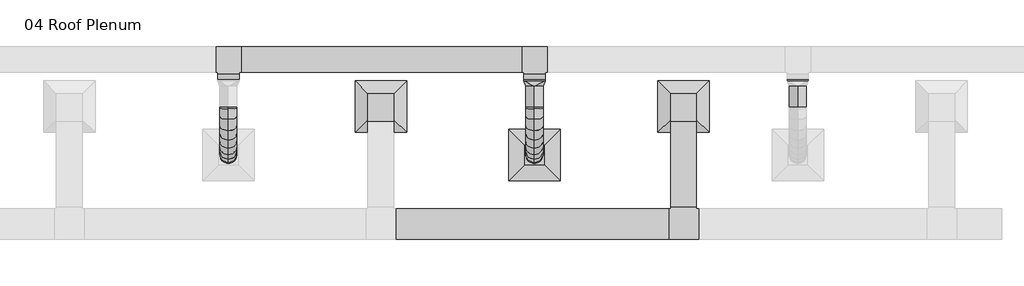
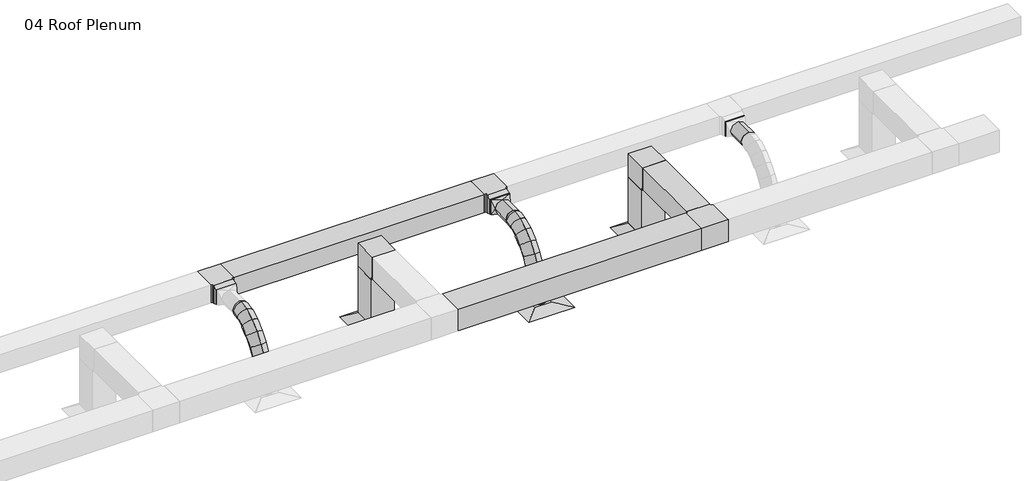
# One storey, part 8 of 9: 11 duct segments, 8 duct fittings, 3 air terminals.
"""IFC4 building model written with IfcOpenShell, lengths in millimetres."""

from ifc_helpers import new_model, si_unit, point, frame, frame_2d, origin, place, context, project, spatial, polyline, circle_curve, ellipse_curve, trimmed, segment, composite_curve, outline, extrude, transform, mapped, element, save
from ifc_brep_helpers import plane_surface, cylinder_surface, advanced_brep
from components import return_diffuser_d30_returndiffuser_24x24_12x12_connection_ff543d60, supply_diffuser_rectangular_face_round_neck_d30_6390248a, rectangular_elbow_mitered_standard_4ff1c4e8, rectangular_tee_standard_b02a46a0, rectangular_tee_standard_ab376c81, rectangular_transition_angle_45_degree_c4f24900, rectangular_to_round_transition_angle_45_degree_e9430680

model = new_model("IFC4")

# Units and contexts
model_context = context("Model", 3, world=origin())
ifc_project = project(units=[si_unit("LENGTHUNIT", "METRE", prefix="MILLI")], contexts=[model_context])

# Site, building, storey
site = spatial("IfcSite", under=ifc_project)
building = spatial("IfcBuilding", under=site)
storey = spatial("IfcBuildingStorey", under=building, Name="04 Roof Plenum", Elevation=12192.0)

# Air terminals
placement = place(None, origin())
return_diffuser_d30_returndiffuser_24x24_12x12_connection_shape = return_diffuser_d30_returndiffuser_24x24_12x12_connection_ff543d60(model_context)
element("IfcAirTerminal", 1, ObjectType="Return Diffuser : D30_ReturnDiffuser_24x24 12x12 Connection", at=placement, inside=storey, context=model_context, shape_type="MappedRepresentation", body=[
    mapped(return_diffuser_d30_returndiffuser_24x24_12x12_connection_shape, transform((2965.5286275, 10669.6809317, 12192.0), x_axis=(1.0, 0.0, 0.0), y_axis=(0.0, 1.0, 0.0), z_axis=(0.0, 0.0, 1.0))),
])
element("IfcAirTerminal", 2, ObjectType="Return Diffuser : D30_ReturnDiffuser_24x24 12x12 Connection", at=placement, inside=storey, context=model_context, shape_type="MappedRepresentation", body=[
    mapped(return_diffuser_d30_returndiffuser_24x24_12x12_connection_shape, transform((6548.6457383, 10669.6809317, 12192.0), x_axis=(1.0, 0.0, 0.0), y_axis=(0.0, 1.0, 0.0), z_axis=(0.0, 0.0, 1.0))),
])
supply_diffuser_rectangular_face_round_neck_d30_shape = supply_diffuser_rectangular_face_round_neck_d30_6390248a(model_context)
element("IfcAirTerminal", 3, ObjectType="Supply Diffuser - Rectangular Face Round Neck : D30_SupplyDiffuser_24x24 8 Neck", at=placement, inside=storey, context=model_context, shape_type="MappedRepresentation", body=[
    mapped(supply_diffuser_rectangular_face_round_neck_d30_shape, transform((4783.476314, 10097.0921675, 12192.0), x_axis=(1.0, 0.0, 0.0), y_axis=(0.0, 1.0, 0.0), z_axis=(0.0, 0.0, 1.0))),
])

# Duct fittings
rectangular_elbow_mitered_standard_shape = rectangular_elbow_mitered_standard_4ff1c4e8(model_context)
element("IfcDuctFitting", 4, ObjectType="Rectangular Elbow - Mitered : Standard", at=placement, inside=storey, context=model_context, shape_type="MappedRepresentation", body=[
    mapped(rectangular_elbow_mitered_standard_shape, transform((6548.6457383, 10669.6809317, 13112.75), x_axis=(0.0, 0.0, 1.0), y_axis=(0.0, -1.0, 0.0), z_axis=(1.0, 0.0, 0.0))),
])
element("IfcDuctFitting", 5, ObjectType="Rectangular Elbow - Mitered : Standard", at=placement, inside=storey, context=model_context, shape_type="MappedRepresentation", body=[
    mapped(rectangular_elbow_mitered_standard_shape, transform((2965.5286275, 10669.6809317, 13112.75), x_axis=(0.0, 0.0, 1.0), y_axis=(0.0, -1.0, 0.0), z_axis=(1.0, 0.0, 0.0))),
])
rectangular_tee_standard_shape = rectangular_tee_standard_b02a46a0(model_context)
element("IfcDuctFitting", 6, ObjectType="Rectangular Tee : Standard", at=placement, inside=storey, context=model_context, shape_type="MappedRepresentation", body=[
    mapped(rectangular_tee_standard_shape, transform((6548.6457383, 9280.3101985, 13112.75), x_axis=(-1.0, 0.0, 0.0), y_axis=(0.0, -1.0, 0.0), z_axis=(0.0, 0.0, 1.0))),
])
rectangular_tee_standard_2_shape = rectangular_tee_standard_ab376c81(model_context)
element("IfcDuctFitting", 7, ObjectType="Rectangular Tee : Standard", at=placement, inside=storey, context=model_context, shape_type="MappedRepresentation", body=[
    mapped(rectangular_tee_standard_2_shape, transform((1160.9657413, 11228.4809317, 13030.2), x_axis=(1.0, 0.0, 0.0), y_axis=(0.0, 1.0, 0.0), z_axis=(0.0, 0.0, 1.0))),
])
element("IfcDuctFitting", 8, ObjectType="Rectangular Tee : Standard", at=placement, inside=storey, context=model_context, shape_type="MappedRepresentation", body=[
    mapped(rectangular_tee_standard_2_shape, transform((4783.476314, 11228.4809317, 13030.2), x_axis=(1.0, 0.0, 0.0), y_axis=(0.0, 1.0, 0.0), z_axis=(0.0, 0.0, 1.0))),
])
rectangular_transition_angle_45_degree_shape = rectangular_transition_angle_45_degree_c4f24900(model_context)
element("IfcDuctFitting", 9, ObjectType="Rectangular Transition - Angle : 45 Degree", at=placement, inside=storey, context=model_context, shape_type="MappedRepresentation", body=[
    mapped(rectangular_transition_angle_45_degree_shape, transform((1160.9657413, 11050.6809317, 13030.2), x_axis=(0.0, -1.0, 0.0), y_axis=(1.0, 0.0, 0.0), z_axis=(0.0, 0.0, 1.0))),
])
element("IfcDuctFitting", 10, ObjectType="Rectangular Transition - Angle : 45 Degree", at=placement, inside=storey, context=model_context, shape_type="MappedRepresentation", body=[
    mapped(rectangular_transition_angle_45_degree_shape, transform((4783.476314, 11050.6809317, 13030.2), x_axis=(0.0, -1.0, 0.0), y_axis=(1.0, 0.0, 0.0), z_axis=(0.0, 0.0, 1.0))),
])
rectangular_to_round_transition_angle_45_degree_shape = rectangular_to_round_transition_angle_45_degree_e9430680(model_context)
element("IfcDuctFitting", 11, ObjectType="Rectangular to Round Transition - Angle : 45 Degree", at=placement, inside=storey, context=model_context, shape_type="MappedRepresentation", body=[
    mapped(rectangular_to_round_transition_angle_45_degree_shape, transform((4783.476314, 10974.4809317, 13030.2), x_axis=(0.0, -1.0, 0.0), y_axis=(1.0, 0.0, 0.0), z_axis=(0.0, 0.0, 1.0))),
])

# Duct segments
element("IfcDuctSegment", 12, ObjectType="Flex - Round", at=placement, inside=storey, context=model_context, shape_type="AdvancedBrep", body=[
    advanced_brep(
    [(1262.5657413, 10669.6809317, 13030.2), (1160.9657413, 10669.6809317, 12928.6), (1059.3657413, 10669.6809317, 13030.2), (1160.9657413, 10669.6809317, 13131.8), (1262.5657413, 10652.2882316, 13030.2), (1160.9657413, 10662.5424009, 12928.6), (1059.3657413, 10652.2882316, 13030.2), (1160.9657413, 10642.0340622, 13131.8), (1262.5657413, 10097.0921675, 12245.975), (1160.9657413, 9995.4921675, 12245.975), (1059.3657413, 10097.0921675, 12245.975), (1160.9657413, 10198.6921675, 12245.975), (1262.5657413, 10552.1485052, 13009.7784039), (1160.9657413, 10586.4635053, 12913.0851535), (1059.3657413, 10552.1485052, 13009.7784039), (1160.9657413, 10517.8335052, 13106.4716542), (1262.5657413, 10443.6651982, 12953.1810901), (1160.9657413, 10501.5750524, 12868.7976172), (1059.3657413, 10443.6651982, 12953.1810901), (1160.9657413, 10385.755344, 13037.5645631), (1262.5657413, 10346.2719981, 12867.4092706), (1160.9657413, 10420.5307901, 12797.423909), (1059.3657413, 10346.2719981, 12867.4092706), (1160.9657413, 10272.0132062, 12937.3946321), (1262.5657413, 10262.0098926, 12759.464157), (1160.9657413, 10346.840584, 12703.0220706), (1059.3657413, 10262.0098926, 12759.464157), (1160.9657413, 10177.1792012, 12815.9062434), (1262.5657413, 10192.9198692, 12636.3469613), (1160.9657413, 10284.8852402, 12592.6187474), (1059.3657413, 10192.9198692, 12636.3469613), (1160.9657413, 10100.9544982, 12680.0751753), (1262.5657413, 10141.0429155, 12505.0588954), (1160.9657413, 10238.0545241, 12474.1014926), (1059.3657413, 10141.0429155, 12505.0588954), (1160.9657413, 10044.0313069, 12536.0162982), (1262.5657413, 10108.4200191, 12372.601171), (1160.9657413, 10208.8419323, 12355.4905212), (1059.3657413, 10108.4200191, 12372.601171), (1160.9657413, 10007.9981059, 12389.7118208), (1262.5657413, 10097.0921675, 12255.0278826), (1160.9657413, 10198.6921675, 12250.1447533), (1059.3657413, 10097.0921675, 12255.0278826), (1160.9657413, 9995.4921675, 12259.911012)],
    [
        (0, 1, circle_curve(frame((1160.9657413, 10669.6809317, 13030.2), z_axis=(0.0, 1.0, 0.0), x_axis=(1.0, 0.0, 0.0)), 101.6)),
        (1, 2, circle_curve(frame((1160.9657413, 10669.6809317, 13030.2), z_axis=(0.0, 1.0, 0.0), x_axis=(1.0, 0.0, 0.0)), 101.6)),
        (2, 3, circle_curve(frame((1160.9657413, 10669.6809317, 13030.2), z_axis=(0.0, 1.0, 0.0), x_axis=(1.0, 0.0, 0.0)), 101.6)),
        (3, 0, circle_curve(frame((1160.9657413, 10669.6809317, 13030.2), z_axis=(0.0, 1.0, 0.0), x_axis=(1.0, 0.0, 0.0)), 101.6)),
        (0, 4),
        (4, 5, ellipse_curve(frame((1160.9657413, 10652.2882316, 13030.2), z_axis=(0.0, 0.9949454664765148, 0.10041672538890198), x_axis=(0.0, 0.10041672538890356, -0.9949454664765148)), 102.1161495, 101.6)),
        (5, 1),
        (5, 6, ellipse_curve(frame((1160.9657413, 10652.2882316, 13030.2), z_axis=(0.0, 0.9949454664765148, 0.10041672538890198), x_axis=(0.0, 0.10041672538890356, -0.9949454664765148)), 102.1161495, 101.6)),
        (6, 2),
        (6, 7, ellipse_curve(frame((1160.9657413, 10652.2882316, 13030.2), z_axis=(0.0, 0.9949454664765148, 0.10041672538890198), x_axis=(0.0, 0.10041672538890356, -0.9949454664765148)), 102.1161495, 101.6)),
        (7, 3),
        (7, 4, ellipse_curve(frame((1160.9657413, 10652.2882316, 13030.2), z_axis=(0.0, 0.9949454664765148, 0.10041672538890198), x_axis=(0.0, 0.10041672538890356, -0.9949454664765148)), 102.1161495, 101.6)),
        (8, 9, circle_curve(frame((1160.9657413, 10097.0921675, 12245.975), z_axis=(0.0, 0.0, -1.0), x_axis=(1.0, 0.0, 0.0)), 101.6)),
        (9, 10, circle_curve(frame((1160.9657413, 10097.0921675, 12245.975), z_axis=(0.0, 0.0, -1.0), x_axis=(1.0, 0.0, 0.0)), 101.6)),
        (10, 11, circle_curve(frame((1160.9657413, 10097.0921675, 12245.975), z_axis=(0.0, 0.0, -1.0), x_axis=(1.0, 0.0, 0.0)), 101.6)),
        (11, 8, circle_curve(frame((1160.9657413, 10097.0921675, 12245.975), z_axis=(0.0, 0.0, -1.0), x_axis=(1.0, 0.0, 0.0)), 101.6)),
        (4, 12),
        (12, 13, ellipse_curve(frame((1160.9657413, 10552.1485052, 13009.7784039), z_axis=(0.0, 0.9424139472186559, 0.33444872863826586), x_axis=(0.0, 0.3344487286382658, -0.9424139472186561)), 102.6016759, 101.6)),
        (13, 5),
        (13, 14, ellipse_curve(frame((1160.9657413, 10552.1485052, 13009.7784039), z_axis=(0.0, 0.9424139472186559, 0.33444872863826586), x_axis=(0.0, 0.3344487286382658, -0.9424139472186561)), 102.6016759, 101.6)),
        (14, 6),
        (14, 15, ellipse_curve(frame((1160.9657413, 10552.1485052, 13009.7784039), z_axis=(0.0, 0.9424139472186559, 0.33444872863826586), x_axis=(0.0, 0.3344487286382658, -0.9424139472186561)), 102.6016759, 101.6)),
        (15, 7),
        (15, 12, ellipse_curve(frame((1160.9657413, 10552.1485052, 13009.7784039), z_axis=(0.0, 0.9424139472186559, 0.33444872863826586), x_axis=(0.0, 0.3344487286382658, -0.9424139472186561)), 102.6016759, 101.6)),
        (12, 16),
        (16, 17, ellipse_curve(frame((1160.9657413, 10443.6651982, 12953.1810901), z_axis=(0.0, 0.8245150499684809, 0.5658400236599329), x_axis=(0.0, 0.5658400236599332, -0.8245150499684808)), 102.3431567, 101.6)),
        (17, 13),
        (17, 18, ellipse_curve(frame((1160.9657413, 10443.6651982, 12953.1810901), z_axis=(0.0, 0.8245150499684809, 0.5658400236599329), x_axis=(0.0, 0.5658400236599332, -0.8245150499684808)), 102.3431567, 101.6)),
        (18, 14),
        (18, 19, ellipse_curve(frame((1160.9657413, 10443.6651982, 12953.1810901), z_axis=(0.0, 0.8245150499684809, 0.5658400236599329), x_axis=(0.0, 0.5658400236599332, -0.8245150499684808)), 102.3431567, 101.6)),
        (19, 15),
        (19, 16, ellipse_curve(frame((1160.9657413, 10443.6651982, 12953.1810901), z_axis=(0.0, 0.8245150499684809, 0.5658400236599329), x_axis=(0.0, 0.5658400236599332, -0.8245150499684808)), 102.3431567, 101.6)),
        (16, 20),
        (20, 21, ellipse_curve(frame((1160.9657413, 10346.2719981, 12867.4092706), z_axis=(0.0, 0.6858568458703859, 0.7277364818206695), x_axis=(0.0, 0.7277364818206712, -0.6858568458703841)), 102.0407714, 101.6)),
        (21, 17),
        (21, 22, ellipse_curve(frame((1160.9657413, 10346.2719981, 12867.4092706), z_axis=(0.0, 0.6858568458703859, 0.7277364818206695), x_axis=(0.0, 0.7277364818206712, -0.6858568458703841)), 102.0407714, 101.6)),
        (22, 18),
        (22, 23, ellipse_curve(frame((1160.9657413, 10346.2719981, 12867.4092706), z_axis=(0.0, 0.6858568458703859, 0.7277364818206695), x_axis=(0.0, 0.7277364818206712, -0.6858568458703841)), 102.0407714, 101.6)),
        (23, 19),
        (23, 20, ellipse_curve(frame((1160.9657413, 10346.2719981, 12867.4092706), z_axis=(0.0, 0.6858568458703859, 0.7277364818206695), x_axis=(0.0, 0.7277364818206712, -0.6858568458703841)), 102.0407714, 101.6)),
        (20, 24),
        (24, 25, ellipse_curve(frame((1160.9657413, 10262.0098926, 12759.464157), z_axis=(0.0, 0.5539409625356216, 0.832555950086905), x_axis=(0.0, 0.8325559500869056, -0.5539409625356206)), 101.8918805, 101.6)),
        (25, 21),
        (25, 26, ellipse_curve(frame((1160.9657413, 10262.0098926, 12759.464157), z_axis=(0.0, 0.5539409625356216, 0.832555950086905), x_axis=(0.0, 0.8325559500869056, -0.5539409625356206)), 101.8918805, 101.6)),
        (26, 22),
        (26, 27, ellipse_curve(frame((1160.9657413, 10262.0098926, 12759.464157), z_axis=(0.0, 0.5539409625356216, 0.832555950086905), x_axis=(0.0, 0.8325559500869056, -0.5539409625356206)), 101.8918805, 101.6)),
        (27, 23),
        (27, 24, ellipse_curve(frame((1160.9657413, 10262.0098926, 12759.464157), z_axis=(0.0, 0.5539409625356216, 0.832555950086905), x_axis=(0.0, 0.8325559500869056, -0.5539409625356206)), 101.8918805, 101.6)),
        (24, 28),
        (28, 29, ellipse_curve(frame((1160.9657413, 10192.9198692, 12636.3469613), z_axis=(0.0, 0.42941463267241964, 0.9031074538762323), x_axis=(0.0, 0.9031074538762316, -0.4294146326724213)), 101.832147, 101.6)),
        (29, 25),
        (29, 30, ellipse_curve(frame((1160.9657413, 10192.9198692, 12636.3469613), z_axis=(0.0, 0.42941463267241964, 0.9031074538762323), x_axis=(0.0, 0.9031074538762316, -0.4294146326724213)), 101.832147, 101.6)),
        (30, 26),
        (30, 31, ellipse_curve(frame((1160.9657413, 10192.9198692, 12636.3469613), z_axis=(0.0, 0.42941463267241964, 0.9031074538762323), x_axis=(0.0, 0.9031074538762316, -0.4294146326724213)), 101.832147, 101.6)),
        (31, 27),
        (31, 28, ellipse_curve(frame((1160.9657413, 10192.9198692, 12636.3469613), z_axis=(0.0, 0.42941463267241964, 0.9031074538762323), x_axis=(0.0, 0.9031074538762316, -0.4294146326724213)), 101.832147, 101.6)),
        (28, 32),
        (32, 33, ellipse_curve(frame((1160.9657413, 10141.0429155, 12505.0588954), z_axis=(0.0, 0.30400676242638, 0.9526698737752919), x_axis=(0.0, 0.9526698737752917, -0.3040067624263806)), 101.8312967, 101.6)),
        (33, 29),
        (33, 34, ellipse_curve(frame((1160.9657413, 10141.0429155, 12505.0588954), z_axis=(0.0, 0.30400676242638, 0.9526698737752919), x_axis=(0.0, 0.9526698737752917, -0.3040067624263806)), 101.8312967, 101.6)),
        (34, 30),
        (34, 35, ellipse_curve(frame((1160.9657413, 10141.0429155, 12505.0588954), z_axis=(0.0, 0.30400676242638, 0.9526698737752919), x_axis=(0.0, 0.9526698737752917, -0.3040067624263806)), 101.8312967, 101.6)),
        (35, 31),
        (35, 32, ellipse_curve(frame((1160.9657413, 10141.0429155, 12505.0588954), z_axis=(0.0, 0.30400676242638, 0.9526698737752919), x_axis=(0.0, 0.9526698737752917, -0.3040067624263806)), 101.8312967, 101.6)),
        (32, 36),
        (36, 37, ellipse_curve(frame((1160.9657413, 10108.4200191, 12372.601171), z_axis=(0.0, 0.16796685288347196, 0.9857926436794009), x_axis=(0.0, 0.9857926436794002, -0.16796685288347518)), 101.8692053, 101.6)),
        (37, 33),
        (37, 38, ellipse_curve(frame((1160.9657413, 10108.4200191, 12372.601171), z_axis=(0.0, 0.16796685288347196, 0.9857926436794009), x_axis=(0.0, 0.9857926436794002, -0.16796685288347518)), 101.8692053, 101.6)),
        (38, 34),
        (38, 39, ellipse_curve(frame((1160.9657413, 10108.4200191, 12372.601171), z_axis=(0.0, 0.16796685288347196, 0.9857926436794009), x_axis=(0.0, 0.9857926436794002, -0.16796685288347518)), 101.8692053, 101.6)),
        (39, 35),
        (39, 36, ellipse_curve(frame((1160.9657413, 10108.4200191, 12372.601171), z_axis=(0.0, 0.16796685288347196, 0.9857926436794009), x_axis=(0.0, 0.9857926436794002, -0.16796685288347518)), 101.8692053, 101.6)),
        (36, 40),
        (40, 41, ellipse_curve(frame((1160.9657413, 10097.0921675, 12255.0278826), z_axis=(0.0, 0.04800688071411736, 0.998847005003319), x_axis=(0.0, 0.9988470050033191, -0.048006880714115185)), 101.7172795, 101.6)),
        (41, 37),
        (41, 42, ellipse_curve(frame((1160.9657413, 10097.0921675, 12255.0278826), z_axis=(0.0, 0.04800688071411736, 0.998847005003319), x_axis=(0.0, 0.9988470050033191, -0.048006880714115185)), 101.7172795, 101.6)),
        (42, 38),
        (42, 43, ellipse_curve(frame((1160.9657413, 10097.0921675, 12255.0278826), z_axis=(0.0, 0.04800688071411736, 0.998847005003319), x_axis=(0.0, 0.9988470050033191, -0.048006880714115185)), 101.7172795, 101.6)),
        (43, 39),
        (43, 40, ellipse_curve(frame((1160.9657413, 10097.0921675, 12255.0278826), z_axis=(0.0, 0.04800688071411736, 0.998847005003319), x_axis=(0.0, 0.9988470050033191, -0.048006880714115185)), 101.7172795, 101.6)),
        (40, 8),
        (11, 41),
        (10, 42),
        (9, 43),
    ],
    [
        plane_surface(frame((1059.3657413, 10669.6809317, 13030.2), z_axis=(0.0, 1.0, 0.0), x_axis=(0.0, 0.0, -1.0))),
        cylinder_surface(frame((1160.9657413, 10669.6809317, 13030.2), z_axis=(0.0, 1.0, 0.0), x_axis=(1.0, 0.0, 0.0)), 101.6),
        plane_surface(frame((1160.9657413, 9995.4921675, 12245.975), z_axis=(0.0, 0.0, -1.0), x_axis=(-1.0, 0.0, 0.0))),
        cylinder_surface(frame((1160.9657413, 10652.2882316, 13030.2), z_axis=(0.0, 0.9798329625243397, 0.19981833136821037), x_axis=(1.0, 0.0, 0.0)), 101.6),
        cylinder_surface(frame((1160.9657413, 10552.1485052, 13009.7784039), z_axis=(0.0, 0.8865938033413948, 0.4625488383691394), x_axis=(1.0, 0.0, 0.0)), 101.6),
        cylinder_surface(frame((1160.9657413, 10443.6651982, 12953.1810901), z_axis=(0.0, 0.7504619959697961, 0.6609136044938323), x_axis=(1.0, 0.0, 0.0)), 101.6),
        cylinder_surface(frame((1160.9657413, 10346.2719981, 12867.4092706), z_axis=(0.0, 0.6153264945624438, 0.7882723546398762), x_axis=(1.0, 0.0, 0.0)), 101.6),
        cylinder_surface(frame((1160.9657413, 10262.0098926, 12759.464157), z_axis=(0.0, 0.4893817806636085, 0.8720696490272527), x_axis=(1.0, 0.0, 0.0)), 101.6),
        cylinder_surface(frame((1160.9657413, 10192.9198692, 12636.3469613), z_axis=(0.0, 0.36748960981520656, 0.9300276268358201), x_axis=(1.0, 0.0, 0.0)), 101.6),
        cylinder_surface(frame((1160.9657413, 10141.0429155, 12505.0588954), z_axis=(0.0, 0.23914289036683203, 0.9709843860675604), x_axis=(1.0, 0.0, 0.0)), 101.6),
        cylinder_surface(frame((1160.9657413, 10108.4200191, 12372.601171), z_axis=(0.0, 0.09590305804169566, 0.995390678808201), x_axis=(1.0, 0.0, 0.0)), 101.6),
        cylinder_surface(frame((1160.9657413, 10097.0921675, 12255.0278826), z_axis=(0.0, 0.0, 1.0), x_axis=(1.0, 0.0, 0.0)), 101.6),
    ],
    [
        (0, [[1, 2, 3, 4]]),
        (1, [[-1, 5, 6, 7]]),
        (1, [[-2, -7, 8, 9]]),
        (1, [[-3, -9, 10, 11]]),
        (1, [[-4, -11, 12, -5]]),
        (2, [[13, 14, 15, 16]]),
        (3, [[-6, 17, 18, 19]]),
        (3, [[-8, -19, 20, 21]]),
        (3, [[-10, -21, 22, 23]]),
        (3, [[-12, -23, 24, -17]]),
        (4, [[-18, 25, 26, 27]]),
        (4, [[-20, -27, 28, 29]]),
        (4, [[-22, -29, 30, 31]]),
        (4, [[-24, -31, 32, -25]]),
        (5, [[-26, 33, 34, 35]]),
        (5, [[-28, -35, 36, 37]]),
        (5, [[-30, -37, 38, 39]]),
        (5, [[-32, -39, 40, -33]]),
        (6, [[-34, 41, 42, 43]]),
        (6, [[-36, -43, 44, 45]]),
        (6, [[-38, -45, 46, 47]]),
        (6, [[-40, -47, 48, -41]]),
        (7, [[-42, 49, 50, 51]]),
        (7, [[-44, -51, 52, 53]]),
        (7, [[-46, -53, 54, 55]]),
        (7, [[-48, -55, 56, -49]]),
        (8, [[-50, 57, 58, 59]]),
        (8, [[-52, -59, 60, 61]]),
        (8, [[-54, -61, 62, 63]]),
        (8, [[-56, -63, 64, -57]]),
        (9, [[-58, 65, 66, 67]]),
        (9, [[-60, -67, 68, 69]]),
        (9, [[-62, -69, 70, 71]]),
        (9, [[-64, -71, 72, -65]]),
        (10, [[-66, 73, 74, 75]]),
        (10, [[-68, -75, 76, 77]]),
        (10, [[-70, -77, 78, 79]]),
        (10, [[-72, -79, 80, -73]]),
        (11, [[-74, 81, -16, 82]]),
        (11, [[-76, -82, -15, 83]]),
        (11, [[-78, -83, -14, 84]]),
        (11, [[-80, -84, -13, -81]]),
    ],
),
])
element("IfcDuctSegment", 13, ObjectType="Flex - Round", at=placement, inside=storey, context=model_context, shape_type="AdvancedBrep", body=[
    advanced_brep(
    [(4885.076314, 10669.6809317, 13030.2), (4783.476314, 10669.6809317, 12928.6), (4681.876314, 10669.6809317, 13030.2), (4783.476314, 10669.6809317, 13131.8), (4885.076314, 10652.2882316, 13030.2), (4783.476314, 10662.5424009, 12928.6), (4681.876314, 10652.2882316, 13030.2), (4783.476314, 10642.0340622, 13131.8), (4885.076314, 10097.0921675, 12245.975), (4783.476314, 9995.4921675, 12245.975), (4681.876314, 10097.0921675, 12245.975), (4783.476314, 10198.6921675, 12245.975), (4885.076314, 10552.1485052, 13009.7784039), (4783.476314, 10586.4635053, 12913.0851535), (4681.876314, 10552.1485052, 13009.7784039), (4783.476314, 10517.8335052, 13106.4716542), (4885.076314, 10443.6651982, 12953.1810901), (4783.476314, 10501.5750524, 12868.7976172), (4681.876314, 10443.6651982, 12953.1810901), (4783.476314, 10385.755344, 13037.5645631), (4885.076314, 10346.2719981, 12867.4092706), (4783.476314, 10420.5307901, 12797.423909), (4681.876314, 10346.2719981, 12867.4092706), (4783.476314, 10272.0132062, 12937.3946321), (4885.076314, 10262.0098926, 12759.464157), (4783.476314, 10346.840584, 12703.0220706), (4681.876314, 10262.0098926, 12759.464157), (4783.476314, 10177.1792012, 12815.9062434), (4885.076314, 10192.9198692, 12636.3469613), (4783.476314, 10284.8852402, 12592.6187474), (4681.876314, 10192.9198692, 12636.3469613), (4783.476314, 10100.9544982, 12680.0751753), (4885.076314, 10141.0429155, 12505.0588954), (4783.476314, 10238.0545241, 12474.1014926), (4681.876314, 10141.0429155, 12505.0588954), (4783.476314, 10044.0313069, 12536.0162982), (4885.076314, 10108.4200191, 12372.601171), (4783.476314, 10208.8419323, 12355.4905212), (4681.876314, 10108.4200191, 12372.601171), (4783.476314, 10007.9981059, 12389.7118208), (4885.076314, 10097.0921675, 12255.0278826), (4783.476314, 10198.6921675, 12250.1447533), (4681.876314, 10097.0921675, 12255.0278826), (4783.476314, 9995.4921675, 12259.911012)],
    [
        (0, 1, circle_curve(frame((4783.476314, 10669.6809317, 13030.2), z_axis=(0.0, 1.0, 0.0), x_axis=(1.0, 0.0, 0.0)), 101.6)),
        (1, 2, circle_curve(frame((4783.476314, 10669.6809317, 13030.2), z_axis=(0.0, 1.0, 0.0), x_axis=(1.0, 0.0, 0.0)), 101.6)),
        (2, 3, circle_curve(frame((4783.476314, 10669.6809317, 13030.2), z_axis=(0.0, 1.0, 0.0), x_axis=(1.0, 0.0, 0.0)), 101.6)),
        (3, 0, circle_curve(frame((4783.476314, 10669.6809317, 13030.2), z_axis=(0.0, 1.0, 0.0), x_axis=(1.0, 0.0, 0.0)), 101.6)),
        (0, 4),
        (4, 5, ellipse_curve(frame((4783.476314, 10652.2882316, 13030.2), z_axis=(0.0, 0.9949454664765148, 0.10041672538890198), x_axis=(0.0, 0.10041672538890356, -0.9949454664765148)), 102.1161495, 101.6)),
        (5, 1),
        (5, 6, ellipse_curve(frame((4783.476314, 10652.2882316, 13030.2), z_axis=(0.0, 0.9949454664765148, 0.10041672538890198), x_axis=(0.0, 0.10041672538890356, -0.9949454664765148)), 102.1161495, 101.6)),
        (6, 2),
        (6, 7, ellipse_curve(frame((4783.476314, 10652.2882316, 13030.2), z_axis=(0.0, 0.9949454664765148, 0.10041672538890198), x_axis=(0.0, 0.10041672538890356, -0.9949454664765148)), 102.1161495, 101.6)),
        (7, 3),
        (7, 4, ellipse_curve(frame((4783.476314, 10652.2882316, 13030.2), z_axis=(0.0, 0.9949454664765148, 0.10041672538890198), x_axis=(0.0, 0.10041672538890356, -0.9949454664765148)), 102.1161495, 101.6)),
        (8, 9, circle_curve(frame((4783.476314, 10097.0921675, 12245.975), z_axis=(0.0, 0.0, -1.0), x_axis=(1.0, 0.0, 0.0)), 101.6)),
        (9, 10, circle_curve(frame((4783.476314, 10097.0921675, 12245.975), z_axis=(0.0, 0.0, -1.0), x_axis=(1.0, 0.0, 0.0)), 101.6)),
        (10, 11, circle_curve(frame((4783.476314, 10097.0921675, 12245.975), z_axis=(0.0, 0.0, -1.0), x_axis=(1.0, 0.0, 0.0)), 101.6)),
        (11, 8, circle_curve(frame((4783.476314, 10097.0921675, 12245.975), z_axis=(0.0, 0.0, -1.0), x_axis=(1.0, 0.0, 0.0)), 101.6)),
        (4, 12),
        (12, 13, ellipse_curve(frame((4783.476314, 10552.1485052, 13009.7784039), z_axis=(0.0, 0.9424139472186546, 0.3344487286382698), x_axis=(0.0, 0.3344487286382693, -0.9424139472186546)), 102.6016759, 101.6)),
        (13, 5),
        (13, 14, ellipse_curve(frame((4783.476314, 10552.1485052, 13009.7784039), z_axis=(0.0, 0.9424139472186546, 0.3344487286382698), x_axis=(0.0, 0.3344487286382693, -0.9424139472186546)), 102.6016759, 101.6)),
        (14, 6),
        (14, 15, ellipse_curve(frame((4783.476314, 10552.1485052, 13009.7784039), z_axis=(0.0, 0.9424139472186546, 0.3344487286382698), x_axis=(0.0, 0.3344487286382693, -0.9424139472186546)), 102.6016759, 101.6)),
        (15, 7),
        (15, 12, ellipse_curve(frame((4783.476314, 10552.1485052, 13009.7784039), z_axis=(0.0, 0.9424139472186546, 0.3344487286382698), x_axis=(0.0, 0.3344487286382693, -0.9424139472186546)), 102.6016759, 101.6)),
        (12, 16),
        (16, 17, ellipse_curve(frame((4783.476314, 10443.6651982, 12953.1810901), z_axis=(0.0, 0.8245150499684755, 0.5658400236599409), x_axis=(0.0, 0.5658400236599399, -0.8245150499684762)), 102.3431567, 101.6)),
        (17, 13),
        (17, 18, ellipse_curve(frame((4783.476314, 10443.6651982, 12953.1810901), z_axis=(0.0, 0.8245150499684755, 0.5658400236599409), x_axis=(0.0, 0.5658400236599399, -0.8245150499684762)), 102.3431567, 101.6)),
        (18, 14),
        (18, 19, ellipse_curve(frame((4783.476314, 10443.6651982, 12953.1810901), z_axis=(0.0, 0.8245150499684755, 0.5658400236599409), x_axis=(0.0, 0.5658400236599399, -0.8245150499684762)), 102.3431567, 101.6)),
        (19, 15),
        (19, 16, ellipse_curve(frame((4783.476314, 10443.6651982, 12953.1810901), z_axis=(0.0, 0.8245150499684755, 0.5658400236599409), x_axis=(0.0, 0.5658400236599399, -0.8245150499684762)), 102.3431567, 101.6)),
        (16, 20),
        (20, 21, ellipse_curve(frame((4783.476314, 10346.2719981, 12867.4092706), z_axis=(0.0, 0.6858568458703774, 0.7277364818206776), x_axis=(0.0, 0.727736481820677, -0.6858568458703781)), 102.0407714, 101.6)),
        (21, 17),
        (21, 22, ellipse_curve(frame((4783.476314, 10346.2719981, 12867.4092706), z_axis=(0.0, 0.6858568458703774, 0.7277364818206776), x_axis=(0.0, 0.727736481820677, -0.6858568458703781)), 102.0407714, 101.6)),
        (22, 18),
        (22, 23, ellipse_curve(frame((4783.476314, 10346.2719981, 12867.4092706), z_axis=(0.0, 0.6858568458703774, 0.7277364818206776), x_axis=(0.0, 0.727736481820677, -0.6858568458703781)), 102.0407714, 101.6)),
        (23, 19),
        (23, 20, ellipse_curve(frame((4783.476314, 10346.2719981, 12867.4092706), z_axis=(0.0, 0.6858568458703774, 0.7277364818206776), x_axis=(0.0, 0.727736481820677, -0.6858568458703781)), 102.0407714, 101.6)),
        (20, 24),
        (24, 25, ellipse_curve(frame((4783.476314, 10262.0098926, 12759.464157), z_axis=(0.0, 0.5539409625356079, 0.8325559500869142), x_axis=(0.0, 0.8325559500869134, -0.5539409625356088)), 101.8918805, 101.6)),
        (25, 21),
        (25, 26, ellipse_curve(frame((4783.476314, 10262.0098926, 12759.464157), z_axis=(0.0, 0.5539409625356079, 0.8325559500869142), x_axis=(0.0, 0.8325559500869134, -0.5539409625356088)), 101.8918805, 101.6)),
        (26, 22),
        (26, 27, ellipse_curve(frame((4783.476314, 10262.0098926, 12759.464157), z_axis=(0.0, 0.5539409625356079, 0.8325559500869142), x_axis=(0.0, 0.8325559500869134, -0.5539409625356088)), 101.8918805, 101.6)),
        (27, 23),
        (27, 24, ellipse_curve(frame((4783.476314, 10262.0098926, 12759.464157), z_axis=(0.0, 0.5539409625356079, 0.8325559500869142), x_axis=(0.0, 0.8325559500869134, -0.5539409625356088)), 101.8918805, 101.6)),
        (24, 28),
        (28, 29, ellipse_curve(frame((4783.476314, 10192.9198692, 12636.3469613), z_axis=(0.0, 0.4294146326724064, 0.9031074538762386), x_axis=(0.0, 0.9031074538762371, -0.429414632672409)), 101.832147, 101.6)),
        (29, 25),
        (29, 30, ellipse_curve(frame((4783.476314, 10192.9198692, 12636.3469613), z_axis=(0.0, 0.4294146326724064, 0.9031074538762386), x_axis=(0.0, 0.9031074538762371, -0.429414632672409)), 101.832147, 101.6)),
        (30, 26),
        (30, 31, ellipse_curve(frame((4783.476314, 10192.9198692, 12636.3469613), z_axis=(0.0, 0.4294146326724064, 0.9031074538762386), x_axis=(0.0, 0.9031074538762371, -0.429414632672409)), 101.832147, 101.6)),
        (31, 27),
        (31, 28, ellipse_curve(frame((4783.476314, 10192.9198692, 12636.3469613), z_axis=(0.0, 0.4294146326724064, 0.9031074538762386), x_axis=(0.0, 0.9031074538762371, -0.429414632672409)), 101.832147, 101.6)),
        (28, 32),
        (32, 33, ellipse_curve(frame((4783.476314, 10141.0429155, 12505.0588954), z_axis=(0.0, 0.304006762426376, 0.9526698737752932), x_axis=(0.0, 0.9526698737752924, -0.30400676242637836)), 101.8312967, 101.6)),
        (33, 29),
        (33, 34, ellipse_curve(frame((4783.476314, 10141.0429155, 12505.0588954), z_axis=(0.0, 0.304006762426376, 0.9526698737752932), x_axis=(0.0, 0.9526698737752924, -0.30400676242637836)), 101.8312967, 101.6)),
        (34, 30),
        (34, 35, ellipse_curve(frame((4783.476314, 10141.0429155, 12505.0588954), z_axis=(0.0, 0.304006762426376, 0.9526698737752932), x_axis=(0.0, 0.9526698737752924, -0.30400676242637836)), 101.8312967, 101.6)),
        (35, 31),
        (35, 32, ellipse_curve(frame((4783.476314, 10141.0429155, 12505.0588954), z_axis=(0.0, 0.304006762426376, 0.9526698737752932), x_axis=(0.0, 0.9526698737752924, -0.30400676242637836)), 101.8312967, 101.6)),
        (32, 36),
        (36, 37, ellipse_curve(frame((4783.476314, 10108.4200191, 12372.601171), z_axis=(0.0, 0.16796685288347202, 0.9857926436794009), x_axis=(0.0, 0.9857926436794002, -0.16796685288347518)), 101.8692053, 101.6)),
        (37, 33),
        (37, 38, ellipse_curve(frame((4783.476314, 10108.4200191, 12372.601171), z_axis=(0.0, 0.16796685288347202, 0.9857926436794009), x_axis=(0.0, 0.9857926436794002, -0.16796685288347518)), 101.8692053, 101.6)),
        (38, 34),
        (38, 39, ellipse_curve(frame((4783.476314, 10108.4200191, 12372.601171), z_axis=(0.0, 0.16796685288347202, 0.9857926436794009), x_axis=(0.0, 0.9857926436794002, -0.16796685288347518)), 101.8692053, 101.6)),
        (39, 35),
        (39, 36, ellipse_curve(frame((4783.476314, 10108.4200191, 12372.601171), z_axis=(0.0, 0.16796685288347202, 0.9857926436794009), x_axis=(0.0, 0.9857926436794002, -0.16796685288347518)), 101.8692053, 101.6)),
        (36, 40),
        (40, 41, ellipse_curve(frame((4783.476314, 10097.0921675, 12255.0278826), z_axis=(0.0, 0.048006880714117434, 0.9988470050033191), x_axis=(0.0, 0.9988470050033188, -0.04800688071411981)), 101.7172795, 101.6)),
        (41, 37),
        (41, 42, ellipse_curve(frame((4783.476314, 10097.0921675, 12255.0278826), z_axis=(0.0, 0.048006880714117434, 0.9988470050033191), x_axis=(0.0, 0.9988470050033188, -0.04800688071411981)), 101.7172795, 101.6)),
        (42, 38),
        (42, 43, ellipse_curve(frame((4783.476314, 10097.0921675, 12255.0278826), z_axis=(0.0, 0.048006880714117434, 0.9988470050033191), x_axis=(0.0, 0.9988470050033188, -0.04800688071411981)), 101.7172795, 101.6)),
        (43, 39),
        (43, 40, ellipse_curve(frame((4783.476314, 10097.0921675, 12255.0278826), z_axis=(0.0, 0.048006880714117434, 0.9988470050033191), x_axis=(0.0, 0.9988470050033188, -0.04800688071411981)), 101.7172795, 101.6)),
        (40, 8),
        (11, 41),
        (10, 42),
        (9, 43),
    ],
    [
        plane_surface(frame((4681.876314, 10669.6809317, 13030.2), z_axis=(0.0, 1.0, 0.0), x_axis=(0.0, 0.0, -1.0))),
        cylinder_surface(frame((4783.476314, 10669.6809317, 13030.2), z_axis=(0.0, 1.0, 0.0), x_axis=(1.0, 0.0, 0.0)), 101.6),
        plane_surface(frame((4783.476314, 9995.4921675, 12245.975), z_axis=(0.0, 0.0, -1.0), x_axis=(-1.0, 0.0, 0.0))),
        cylinder_surface(frame((4783.476314, 10652.2882316, 13030.2), z_axis=(0.0, 0.9798329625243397, 0.19981833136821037), x_axis=(1.0, 0.0, 0.0)), 101.6),
        cylinder_surface(frame((4783.476314, 10552.1485052, 13009.7784039), z_axis=(0.0, 0.8865938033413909, 0.46254883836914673), x_axis=(1.0, 0.0, 0.0)), 101.6),
        cylinder_surface(frame((4783.476314, 10443.6651982, 12953.1810901), z_axis=(0.0, 0.7504619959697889, 0.6609136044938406), x_axis=(1.0, 0.0, 0.0)), 101.6),
        cylinder_surface(frame((4783.476314, 10346.2719981, 12867.4092706), z_axis=(0.0, 0.6153264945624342, 0.7882723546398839), x_axis=(1.0, 0.0, 0.0)), 101.6),
        cylinder_surface(frame((4783.476314, 10262.0098926, 12759.464157), z_axis=(0.0, 0.48938178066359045, 0.872069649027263), x_axis=(1.0, 0.0, 0.0)), 101.6),
        cylinder_surface(frame((4783.476314, 10192.9198692, 12636.3469613), z_axis=(0.0, 0.3674896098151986, 0.9300276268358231), x_axis=(1.0, 0.0, 0.0)), 101.6),
        cylinder_surface(frame((4783.476314, 10141.0429155, 12505.0588954), z_axis=(0.0, 0.23914289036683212, 0.9709843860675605), x_axis=(1.0, 0.0, 0.0)), 101.6),
        cylinder_surface(frame((4783.476314, 10108.4200191, 12372.601171), z_axis=(0.0, 0.09590305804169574, 0.9953906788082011), x_axis=(1.0, 0.0, 0.0)), 101.6),
        cylinder_surface(frame((4783.476314, 10097.0921675, 12255.0278826), z_axis=(0.0, 0.0, 1.0), x_axis=(1.0, 0.0, 0.0)), 101.6),
    ],
    [
        (0, [[1, 2, 3, 4]]),
        (1, [[-1, 5, 6, 7]]),
        (1, [[-2, -7, 8, 9]]),
        (1, [[-3, -9, 10, 11]]),
        (1, [[-4, -11, 12, -5]]),
        (2, [[13, 14, 15, 16]]),
        (3, [[-6, 17, 18, 19]]),
        (3, [[-8, -19, 20, 21]]),
        (3, [[-10, -21, 22, 23]]),
        (3, [[-12, -23, 24, -17]]),
        (4, [[-18, 25, 26, 27]]),
        (4, [[-20, -27, 28, 29]]),
        (4, [[-22, -29, 30, 31]]),
        (4, [[-24, -31, 32, -25]]),
        (5, [[-26, 33, 34, 35]]),
        (5, [[-28, -35, 36, 37]]),
        (5, [[-30, -37, 38, 39]]),
        (5, [[-32, -39, 40, -33]]),
        (6, [[-34, 41, 42, 43]]),
        (6, [[-36, -43, 44, 45]]),
        (6, [[-38, -45, 46, 47]]),
        (6, [[-40, -47, 48, -41]]),
        (7, [[-42, 49, 50, 51]]),
        (7, [[-44, -51, 52, 53]]),
        (7, [[-46, -53, 54, 55]]),
        (7, [[-48, -55, 56, -49]]),
        (8, [[-50, 57, 58, 59]]),
        (8, [[-52, -59, 60, 61]]),
        (8, [[-54, -61, 62, 63]]),
        (8, [[-56, -63, 64, -57]]),
        (9, [[-58, 65, 66, 67]]),
        (9, [[-60, -67, 68, 69]]),
        (9, [[-62, -69, 70, 71]]),
        (9, [[-64, -71, 72, -65]]),
        (10, [[-66, 73, 74, 75]]),
        (10, [[-68, -75, 76, 77]]),
        (10, [[-70, -77, 78, 79]]),
        (10, [[-72, -79, 80, -73]]),
        (11, [[-74, 81, -16, 82]]),
        (11, [[-76, -82, -15, 83]]),
        (11, [[-78, -83, -14, 84]]),
        (11, [[-80, -84, -13, -81]]),
    ],
),
])
element("IfcDuctSegment", 14, ObjectType="Mitered Elbows / Taps", at=placement, inside=storey, context=model_context, shape_type="SweptSolid", body=[
    extrude(outline(polyline([(3143.3286275, 9102.5101985), (3143.3286275, 9458.1101985), (6370.8457383, 9458.1101985), (6370.8457383, 9102.5101985), (3143.3286275, 9102.5101985)])), frame((0.0, 0.0, 12960.35), z_axis=(0.0, 0.0, 1.0), x_axis=(1.0, 0.0, 0.0)), (0.0, 0.0, 1.0), 304.8),
])
element("IfcDuctSegment", 15, ObjectType="Mitered Elbows / Tees", at=placement, inside=storey, context=model_context, shape_type="SweptSolid", body=[
    extrude(outline(polyline([(4656.476314, 10989.3599073), (4910.476314, 10989.3599073), (4910.476314, 10974.4809317), (4656.476314, 10974.4809317), (4656.476314, 10989.3599073)])), frame((0.0, 0.0, 12928.6), z_axis=(0.0, 0.0, 1.0), x_axis=(1.0, 0.0, 0.0)), (0.0, 0.0, 1.0), 203.2),
])
element("IfcDuctSegment", 16, ObjectType="Mitered Elbows / Tees", at=placement, inside=storey, context=model_context, shape_type="SweptSolid", body=[
    extrude(outline(polyline([(1313.3657413, 11076.0809317), (1313.3657413, 11380.8809317), (4631.076314, 11380.8809317), (4631.076314, 11076.0809317), (1313.3657413, 11076.0809317)])), frame((0.0, 0.0, 12903.2), z_axis=(0.0, 0.0, 1.0), x_axis=(1.0, 0.0, 0.0)), (0.0, 0.0, 1.0), 254.0),
])
element("IfcDuctSegment", 17, ObjectType="Mitered Elbows / Tees", at=placement, inside=storey, context=model_context, shape_type="SweptSolid", body=[
    extrude(outline(polyline([(7773.5202951, 10989.3599073), (8027.5202951, 10989.3599073), (8027.5202951, 10974.4809317), (7773.5202951, 10974.4809317), (7773.5202951, 10989.3599073)])), frame((0.0, 0.0, 12928.6), z_axis=(0.0, 0.0, 1.0), x_axis=(1.0, 0.0, 0.0)), (0.0, 0.0, 1.0), 203.2),
])
element("IfcDuctSegment", 18, ObjectType="Mitered Elbows / Tees", at=placement, inside=storey, context=model_context, shape_type="SweptSolid", body=[
    extrude(outline(polyline([(6701.0457383, 9483.5101985), (6396.2457383, 9483.5101985), (6396.2457383, 10491.8809317), (6701.0457383, 10491.8809317), (6701.0457383, 9483.5101985)])), frame((0.0, 0.0, 12960.35), z_axis=(0.0, 0.0, 1.0), x_axis=(1.0, 0.0, 0.0)), (0.0, 0.0, 1.0), 304.8),
])
element("IfcDuctSegment", 19, ObjectType="Mitered Elbows / Tees", at=placement, inside=storey, context=model_context, shape_type="SweptSolid", body=[
    extrude(outline(polyline([(6396.2457383, 10822.0809317), (6701.0457383, 10822.0809317), (6701.0457383, 10517.2809317), (6396.2457383, 10517.2809317), (6396.2457383, 10822.0809317)])), frame((0.0, 0.0, 12293.6), z_axis=(0.0, 0.0, 1.0), x_axis=(1.0, 0.0, 0.0)), (0.0, 0.0, 1.0), 641.35),
])
element("IfcDuctSegment", 20, ObjectType="Mitered Elbows / Tees", at=placement, inside=storey, context=model_context, shape_type="SweptSolid", body=[
    extrude(outline(polyline([(2813.1286275, 10822.0809317), (3117.9286275, 10822.0809317), (3117.9286275, 10517.2809317), (2813.1286275, 10517.2809317), (2813.1286275, 10822.0809317)])), frame((0.0, 0.0, 12293.6), z_axis=(0.0, 0.0, 1.0), x_axis=(1.0, 0.0, 0.0)), (0.0, 0.0, 1.0), 641.35),
])
element("IfcDuctSegment", 21, ObjectType="Taps", at=placement, inside=storey, context=model_context, shape_type="SweptSolid", body=[
    extrude(outline(composite_curve([segment(trimmed(circle_curve(frame_2d((13030.2, 4783.476314)), 101.6), [point((13030.2, 4681.876314))], [point((12928.6, 4783.476314))], False, "CARTESIAN"), True, "CONTINUOUS"), segment(trimmed(circle_curve(frame_2d((13030.2, 4783.476314)), 101.6), [point((12928.6, 4783.476314))], [point((13030.2, 4885.076314))], False, "CARTESIAN"), True, "CONTINUOUS"), segment(trimmed(circle_curve(frame_2d((13030.2, 4783.476314)), 101.6), [point((13030.2, 4885.076314))], [point((13131.8, 4783.476314))], False, "CARTESIAN"), True, "CONTINUOUS"), segment(trimmed(circle_curve(frame_2d((13030.2, 4783.476314)), 101.6), [point((13131.8, 4783.476314))], [point((13030.2, 4681.876314))], False, "CARTESIAN"), True, "CONTINUOUS")], self_intersect=False)), frame((0.0, 10669.6809317, 0.0), z_axis=(0.0, 1.0, 0.0), x_axis=(0.0, 0.0, 1.0)), (0.0, 0.0, 1.0), 243.4789755),
])
element("IfcDuctSegment", 22, ObjectType="Taps", at=placement, inside=storey, context=model_context, shape_type="SweptSolid", body=[
    extrude(outline(composite_curve([segment(trimmed(circle_curve(frame_2d((13030.2, 7900.5202951)), 101.6), [point((13030.2, 7798.9202951))], [point((12928.6, 7900.5202951))], False, "CARTESIAN"), True, "CONTINUOUS"), segment(trimmed(circle_curve(frame_2d((13030.2, 7900.5202951)), 101.6), [point((12928.6, 7900.5202951))], [point((13030.2, 8002.1202951))], False, "CARTESIAN"), True, "CONTINUOUS"), segment(trimmed(circle_curve(frame_2d((13030.2, 7900.5202951)), 101.6), [point((13030.2, 8002.1202951))], [point((13131.8, 7900.5202951))], False, "CARTESIAN"), True, "CONTINUOUS"), segment(trimmed(circle_curve(frame_2d((13030.2, 7900.5202951)), 101.6), [point((13131.8, 7900.5202951))], [point((13030.2, 7798.9202951))], False, "CARTESIAN"), True, "CONTINUOUS")], self_intersect=False)), frame((0.0, 10669.6809317, 0.0), z_axis=(0.0, 1.0, 0.0), x_axis=(0.0, 0.0, 1.0)), (0.0, 0.0, 1.0), 243.4789755),
])

save(model, "model.ifc")
